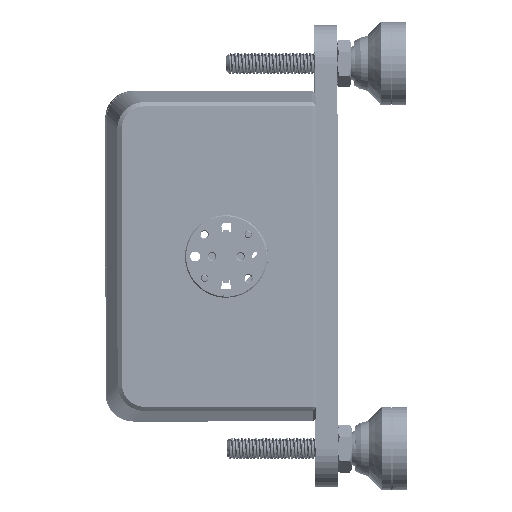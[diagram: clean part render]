
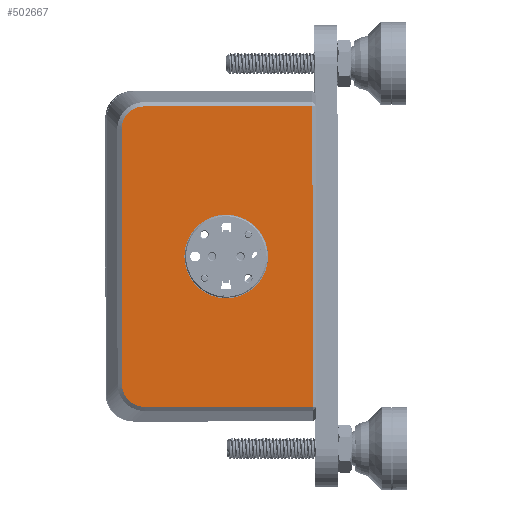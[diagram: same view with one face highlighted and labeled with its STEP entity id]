
A CAD part, left-side view. The second image highlights one B-rep face of the part: STEP entity #502667.
In plain terms, the highlighted planar face has unit normal (-1, -0.002, -0.001).
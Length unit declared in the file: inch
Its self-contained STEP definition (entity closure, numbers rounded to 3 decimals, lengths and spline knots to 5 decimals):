
#1399 = CARTESIAN_POINT ( 'NONE',  ( -1.5937, -6.7461, -2.64177 ) ) ;
#2733 = CARTESIAN_POINT ( 'NONE',  ( -1.59347, -6.87485, -2.68332 ) ) ;
#12566 = DIRECTION ( 'NONE',  ( -0.001, 0.001, 1. ) ) ;
#27377 = CARTESIAN_POINT ( 'NONE',  ( -1.5918, -8.39923, -1.31627 ) ) ;
#28527 = CARTESIAN_POINT ( 'NONE',  ( -1.59511, -6.70421, -0.03361 ) ) ;
#31192 = CARTESIAN_POINT ( 'NONE',  ( -1.59507, -6.74267, 0.00494 ) ) ;
#32326 = EDGE_CURVE ( 'NONE', #291477, #260079, #315967, .T. ) ;
#41886 = ORIENTED_EDGE ( 'NONE', *, *, #305220, .F. ) ;
#41893 = CARTESIAN_POINT ( 'NONE',  ( -1.59381, -6.69203, -2.5801 ) ) ;
#44553 = CARTESIAN_POINT ( 'NONE',  ( -1.59365, -6.76936, -2.65723 ) ) ;
#59134 = PLANE ( 'NONE',  #330617 ) ;
#59796 = CARTESIAN_POINT ( 'NONE',  ( -1.59511, -6.66266, -0.16236 ) ) ;
#90922 = DIRECTION ( 'NONE',  ( -0.002, 1., -0.001 ) ) ;
#93600 = LINE ( 'NONE', #470676, #442156 ) ;
#96194 = CARTESIAN_POINT ( 'NONE',  ( -1.59303, -7.61424, -1.31728 ) ) ;
#102892 = DIRECTION ( 'NONE',  ( 0.002, -1., 0.001 ) ) ;
#103535 = ORIENTED_EDGE ( 'NONE', *, *, #501217, .T. ) ;
#114309 = B_SPLINE_CURVE_WITH_KNOTS ( 'NONE', 3,
 ( #122846, #327666, #335699, #41893, #502606, #1399, #44553, #287281, #494543, #203726 ),
 .UNSPECIFIED., .F., .F.,
 ( 4, 2, 2, 2, 4 ),
 ( 0., 0.25, 0.5, 0.75, 1. ),
 .UNSPECIFIED. ) ;
#116201 = VERTEX_POINT ( 'NONE', #218963 ) ;
#116789 = EDGE_CURVE ( 'NONE', #155794, #312588, #114309, .T. ) ;
#122292 = EDGE_CURVE ( 'NONE', #260668, #116201, #232390, .T. ) ;
#122846 = CARTESIAN_POINT ( 'NONE',  ( -1.59391, -6.66566, -2.47467 ) ) ;
#127456 = CARTESIAN_POINT ( 'NONE',  ( -1.59303, -7.61424, -1.31728 ) ) ;
#131183 = ORIENTED_EDGE ( 'NONE', *, *, #122292, .T. ) ;
#146901 = CARTESIAN_POINT ( 'NONE',  ( -1.59451, -6.66416, -1.31852 ) ) ;
#155794 = VERTEX_POINT ( 'NONE', #423537 ) ;
#161959 = AXIS2_PLACEMENT_3D ( 'NONE', #96194, #338796, #12566 ) ;
#179183 = VERTEX_POINT ( 'NONE', #202241 ) ;
#198347 = CARTESIAN_POINT ( 'NONE',  ( -1.59505, -6.76588, 0.02046 ) ) ;
#202241 = CARTESIAN_POINT ( 'NONE',  ( -1.59283, -7.61473, -1.69728 ) ) ;
#203726 = CARTESIAN_POINT ( 'NONE',  ( -1.59347, -6.87485, -2.68332 ) ) ;
#205042 = CIRCLE ( 'NONE', #161959, 0.38 ) ;
#218963 = CARTESIAN_POINT ( 'NONE',  ( -1.59251, -8.39746, 0.04881 ) ) ;
#227929 = VECTOR ( 'NONE', #308691, 39.37008 ) ;
#232390 = LINE ( 'NONE', #27377, #448700 ) ;
#237684 = DIRECTION ( 'NONE',  ( -0.001, 0.001, 1. ) ) ;
#241470 = CARTESIAN_POINT ( 'NONE',  ( -1.59494, -6.84382, 0.0468 ) ) ;
#242198 = DIRECTION ( 'NONE',  ( 1., 0.002, 0.001 ) ) ;
#246550 = AXIS2_PLACEMENT_3D ( 'NONE', #127456, #370050, #491163 ) ;
#254631 = VECTOR ( 'NONE', #102892, 39.37008 ) ;
#257659 = EDGE_LOOP ( 'NONE', ( #397885, #41886 ) ) ;
#260079 = VERTEX_POINT ( 'NONE', #59796 ) ;
#260668 = VERTEX_POINT ( 'NONE', #355676 ) ;
#263874 = CIRCLE ( 'NONE', #246550, 0.38 ) ;
#279910 = CARTESIAN_POINT ( 'NONE',  ( -1.59324, -7.47924, -1.31746 ) ) ;
#287281 = CARTESIAN_POINT ( 'NONE',  ( -1.59356, -6.81985, -2.67797 ) ) ;
#291477 = VERTEX_POINT ( 'NONE', #335488 ) ;
#296279 = EDGE_CURVE ( 'NONE', #260079, #155794, #475588, .T. ) ;
#305220 = EDGE_CURVE ( 'NONE', #179183, #510929, #205042, .T. ) ;
#308691 = DIRECTION ( 'NONE',  ( 0.001, -0.001, -1. ) ) ;
#310062 = CARTESIAN_POINT ( 'NONE',  ( -1.59322, -7.61374, -0.93729 ) ) ;
#312406 = DIRECTION ( 'NONE',  ( 0.001, -0.001, -1. ) ) ;
#312588 = VERTEX_POINT ( 'NONE', #2733 ) ;
#313673 = ORIENTED_EDGE ( 'NONE', *, *, #32326, .T. ) ;
#315967 = B_SPLINE_CURVE_WITH_KNOTS ( 'NONE', 3,
 ( #324942, #241470, #368029, #198347, #31192, #28527, #360080, #357393, #483906, #405881 ),
 .UNSPECIFIED., .F., .F.,
 ( 4, 2, 2, 2, 4 ),
 ( 0., 0.25, 0.5, 0.75, 1. ),
 .UNSPECIFIED. ) ;
#324942 = CARTESIAN_POINT ( 'NONE',  ( -1.59489, -6.87131, 0.04683 ) ) ;
#327666 = CARTESIAN_POINT ( 'NONE',  ( -1.59389, -6.66569, -2.50216 ) ) ;
#330617 = AXIS2_PLACEMENT_3D ( 'NONE', #279910, #242198, #312406 ) ;
#335488 = CARTESIAN_POINT ( 'NONE',  ( -1.59489, -6.87131, 0.04683 ) ) ;
#335699 = CARTESIAN_POINT ( 'NONE',  ( -1.59387, -6.67116, -2.52965 ) ) ;
#338796 = DIRECTION ( 'NONE',  ( -1., -0.002, -0.001 ) ) ;
#354086 = EDGE_LOOP ( 'NONE', ( #486123, #418215, #131183, #103535, #313673, #464608 ) ) ;
#355676 = CARTESIAN_POINT ( 'NONE',  ( -1.59109, -8.401, -2.68134 ) ) ;
#357393 = CARTESIAN_POINT ( 'NONE',  ( -1.59513, -6.66802, -0.10736 ) ) ;
#360080 = CARTESIAN_POINT ( 'NONE',  ( -1.59513, -6.68876, -0.05687 ) ) ;
#368029 = CARTESIAN_POINT ( 'NONE',  ( -1.59498, -6.81633, 0.04132 ) ) ;
#370050 = DIRECTION ( 'NONE',  ( -1., -0.002, -0.001 ) ) ;
#397885 = ORIENTED_EDGE ( 'NONE', *, *, #463749, .F. ) ;
#405881 = CARTESIAN_POINT ( 'NONE',  ( -1.59511, -6.66266, -0.16236 ) ) ;
#418215 = ORIENTED_EDGE ( 'NONE', *, *, #438957, .T. ) ;
#423143 = FACE_BOUND ( 'NONE', #257659, .T. ) ;
#423537 = CARTESIAN_POINT ( 'NONE',  ( -1.59391, -6.66566, -2.47467 ) ) ;
#433671 = FACE_OUTER_BOUND ( 'NONE', #354086, .T. ) ;
#438957 = EDGE_CURVE ( 'NONE', #312588, #260668, #512394, .T. ) ;
#442156 = VECTOR ( 'NONE', #90922, 39.37008 ) ;
#448700 = VECTOR ( 'NONE', #237684, 39.37008 ) ;
#463749 = EDGE_CURVE ( 'NONE', #510929, #179183, #263874, .T. ) ;
#464608 = ORIENTED_EDGE ( 'NONE', *, *, #296279, .T. ) ;
#470676 = CARTESIAN_POINT ( 'NONE',  ( -1.59395, -7.47747, 0.04762 ) ) ;
#472061 = CARTESIAN_POINT ( 'NONE',  ( -1.59253, -7.48101, -2.68254 ) ) ;
#475588 = LINE ( 'NONE', #146901, #227929 ) ;
#483906 = CARTESIAN_POINT ( 'NONE',  ( -1.59513, -6.66262, -0.13482 ) ) ;
#486123 = ORIENTED_EDGE ( 'NONE', *, *, #116789, .T. ) ;
#491163 = DIRECTION ( 'NONE',  ( -0.001, 0.001, 1. ) ) ;
#494543 = CARTESIAN_POINT ( 'NONE',  ( -1.59352, -6.84731, -2.68336 ) ) ;
#501217 = EDGE_CURVE ( 'NONE', #116201, #291477, #93600, .T. ) ;
#502606 = CARTESIAN_POINT ( 'NONE',  ( -1.59378, -6.70755, -2.60331 ) ) ;
#502667 = ADVANCED_FACE ( 'NONE', ( #423143, #433671 ), #59134, .F. ) ;
#510929 = VERTEX_POINT ( 'NONE', #310062 ) ;
#512394 = LINE ( 'NONE', #472061, #254631 ) ;
